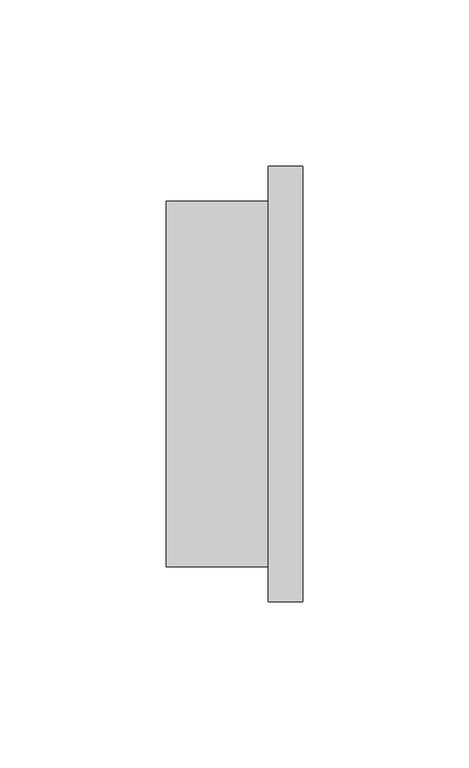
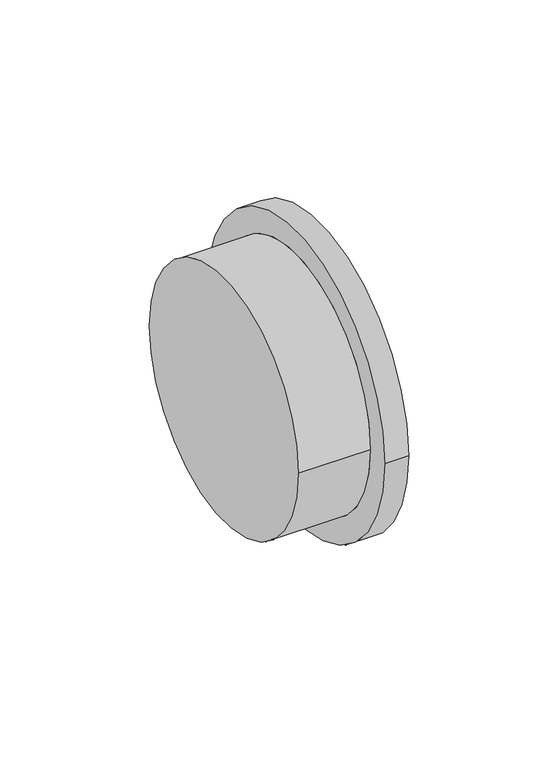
"""IFC4 building model written with IfcOpenShell, lengths in millimetres: pipe fitting geometry, NLRS_52_PIF_UN_PE aansluitsteekmof met lipafdichting, voor wand-wc_geb : DN90-100 / ø90-110."""

from ifc_helpers import new_model, si_unit, frame, origin, place, context, project, spatial, circle_curve, source, transform, mapped, element, save
from ifc_brep_helpers import plane_surface, cylinder_surface, advanced_brep


def pipe_fitting_40b46b3c(model_context):
    return source(origin(), model_context, "Body", "AdvancedBrep", [
        advanced_brep(
        [(41.0, -65.5, 0.0), (41.0, 65.5, 0.0), (30.75, -65.5, 0.0), (30.75, 65.5, 0.0), (30.75, -55.0, 0.0), (30.75, 55.0, 0.0), (0.0, -55.0, 0.0), (0.0, 55.0, 0.0)],
        [
            (0, 1, circle_curve(frame((41.0, 0.0, 0.0), z_axis=(1.0, 0.0, 0.0), x_axis=(0.0, 1.0, 0.0)), 65.5)),
            (1, 0, circle_curve(frame((41.0, 0.0, 0.0), z_axis=(1.0, 0.0, 0.0), x_axis=(0.0, 1.0, 0.0)), 65.5)),
            (2, 3, circle_curve(frame((30.75, 0.0, 0.0), z_axis=(-1.0, 0.0, 0.0), x_axis=(0.0, 1.0, 0.0)), 65.5)),
            (3, 2, circle_curve(frame((30.75, 0.0, 0.0), z_axis=(-1.0, 0.0, 0.0), x_axis=(0.0, 1.0, 0.0)), 65.5)),
            (4, 5, circle_curve(frame((30.75, 0.0, 0.0), z_axis=(1.0, 0.0, 0.0), x_axis=(0.0, 1.0, 0.0)), 55.0)),
            (5, 4, circle_curve(frame((30.75, 0.0, 0.0), z_axis=(1.0, 0.0, 0.0), x_axis=(0.0, 1.0, 0.0)), 55.0)),
            (0, 2),
            (3, 1),
            (6, 7, circle_curve(frame((0.0, 0.0, 0.0), z_axis=(-1.0, 0.0, 0.0), x_axis=(0.0, 1.0, 0.0)), 55.0)),
            (7, 6, circle_curve(frame((0.0, 0.0, 0.0), z_axis=(-1.0, 0.0, 0.0), x_axis=(0.0, 1.0, 0.0)), 55.0)),
            (7, 5),
            (4, 6),
        ],
        [
            plane_surface(frame((41.0, 55.0, 0.0), z_axis=(1.0, 0.0, 0.0), x_axis=(0.0, 0.0, -1.0))),
            plane_surface(frame((30.75, 55.0, 0.0), z_axis=(-1.0, 0.0, 0.0), x_axis=(0.0, 0.0, 1.0))),
            cylinder_surface(frame((0.0, 0.0, 0.0), z_axis=(1.0, 0.0, 0.0), x_axis=(0.0, 1.0, 0.0)), 65.5),
            plane_surface(frame((0.0, 55.0, 0.0), z_axis=(-1.0, 0.0, 0.0), x_axis=(0.0, 0.0, -1.0))),
            cylinder_surface(frame((0.0, 0.0, 0.0), z_axis=(1.0, 0.0, 0.0), x_axis=(0.0, 1.0, 0.0)), 55.0),
        ],
        [
            (0, [[1, 2]]),
            (1, [[3, 4], [5, 6]]),
            (2, [[-1, 7, -4, 8]]),
            (2, [[-2, -8, -3, -7]]),
            (3, [[9, 10]]),
            (4, [[-10, 11, -5, 12]]),
            (4, [[-9, -12, -6, -11]]),
        ],
    ),
    ])


if __name__ == "__main__":
    model = new_model("IFC4")
    model_context = context("Model", 3, world=origin())
    ifc_project = project(units=[si_unit("LENGTHUNIT", "METRE", prefix="MILLI")], contexts=[model_context])
    site = spatial("IfcSite", under=ifc_project)
    building = spatial("IfcBuilding", under=site)
    placement = place(None, origin())
    pipe_fitting_shape = pipe_fitting_40b46b3c(model_context)
    element("IfcPipeFitting", 1, ObjectType="NLRS_52_PIF_UN_PE aansluitsteekmof met lipafdichting, voor wand-wc_geb : DN90-100 / ø90-110", at=placement, inside=building, context=model_context, shape_type="MappedRepresentation", body=[
        mapped(pipe_fitting_shape, transform((0.0, 0.0, 0.0), x_axis=(1.0, 0.0, 0.0), y_axis=(0.0, 1.0, 0.0), z_axis=(0.0, 0.0, 1.0))),
    ])
    save(model, "model.ifc")
